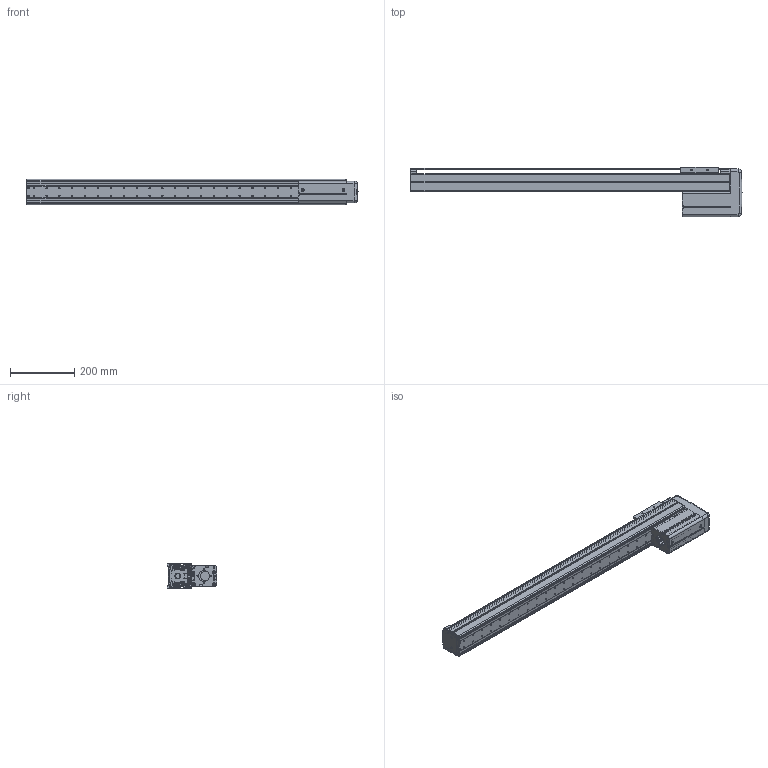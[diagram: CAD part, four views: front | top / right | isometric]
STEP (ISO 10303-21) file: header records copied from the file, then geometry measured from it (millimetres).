
FILE_DESCRIPTION((''),'2;1');
FILE_NAME('BE10E-UU-M_N-80_IGS_PRT','2017-06-17T',(' '),(''),'PRO/ENGINEER BY PARAMETRIC TECHNOLOGY CORPORATION, 2015030','PRO/ENGINEER BY PARAMETRIC TECHNOLOGY CORPORATION, 2015030','');
FILE_SCHEMA(('CONFIG_CONTROL_DESIGN'));
Length unit declared in the file: millimetre
Products named in the file (1): BE10E-UU-M_N-80_IGS_PRT
Bounding box: 1032 x 153 x 78 mm (x, y, z)
Volume: 1408031.3 mm3; surface area: 992459.6 mm2
Topology: 3 solids, 127 shells, 1853 faces, 5008 edges, 3264 vertices
Faces by surface type: cylinder 911, plane 714, cone 81, torus 71, sphere 44, bspline 32
Entity records: 60676 total; most frequent: CARTESIAN_POINT 12799, DIRECTION 10396, ORIENTED_EDGE 9474, EDGE_CURVE 4972, AXIS2_PLACEMENT_3D 3902, VERTEX_POINT 3264, VECTOR 2592, LINE 2592
